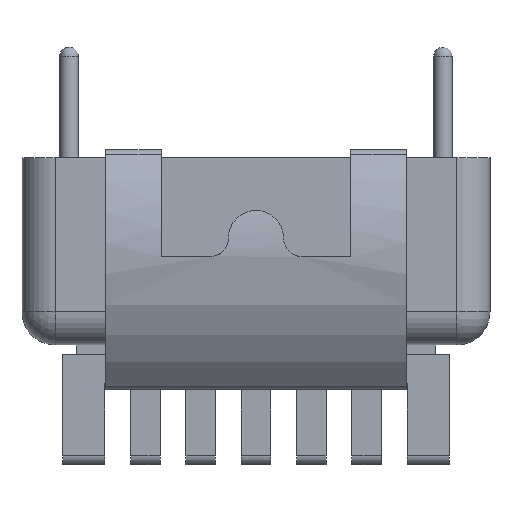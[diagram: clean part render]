
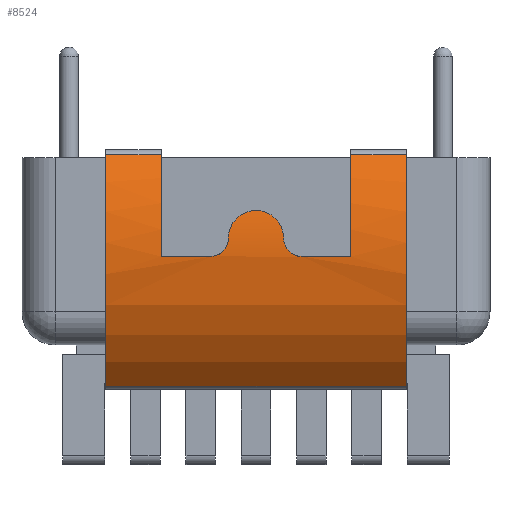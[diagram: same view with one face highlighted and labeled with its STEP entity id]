
A CAD part, left-side view. The second image highlights one B-rep face of the part: STEP entity #8524.
In plain terms, the highlighted cylindrical face has radius 10 mm (diameter 20 mm), a partial arc.
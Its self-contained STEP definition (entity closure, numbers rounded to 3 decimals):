
#36=B_SPLINE_CURVE_WITH_KNOTS('',3,(#14031,#14032,#14033,#14034,#14035,
#14036,#14037,#14038,#14039,#14040),.UNSPECIFIED.,.F.,.F.,(4,2,2,2,4),(0.302,
0.34,0.378,0.416,0.453),
 .UNSPECIFIED.);
#37=B_SPLINE_CURVE_WITH_KNOTS('',3,(#14044,#14045,#14046,#14047,#14048,
#14049,#14050,#14051,#14052,#14053,#14054,#14055,#14056,#14057,#14058,#14059,
#14060,#14061),.UNSPECIFIED.,.F.,.F.,(4,2,2,2,2,2,2,2,4),(-0.682,
-0.625,-0.567,-0.511,-0.454,
-0.397,-0.341,-0.284,-0.226),
 .UNSPECIFIED.);
#38=B_SPLINE_CURVE_WITH_KNOTS('',3,(#14065,#14066,#14067,#14068,#14069,
#14070,#14071,#14072,#14073,#14074),.UNSPECIFIED.,.F.,.F.,(4,2,2,2,4),(0.152,
0.189,0.227,0.265,0.302),
 .UNSPECIFIED.);
#187=CYLINDRICAL_SURFACE('',#9225,10.);
#493=CIRCLE('',#9209,10.);
#496=CIRCLE('',#9214,10.);
#499=CIRCLE('',#9219,10.);
#501=CIRCLE('',#9223,10.);
#946=FACE_OUTER_BOUND('',#1430,.T.);
#1430=EDGE_LOOP('',(#7457,#7458,#7459,#7460,#7461,#7462,#7463,#7464,#7465,
#7466,#7467,#7468));
#2329=LINE('',#14078,#3227);
#2330=LINE('',#14086,#3228);
#2331=LINE('',#14094,#3229);
#2332=LINE('',#14101,#3230);
#2334=LINE('',#14108,#3232);
#3227=VECTOR('',#11390,2.65);
#3228=VECTOR('',#11401,3.);
#3229=VECTOR('',#11412,16.3);
#3230=VECTOR('',#11421,3.);
#3232=VECTOR('',#11431,2.65);
#4015=VERTEX_POINT('',#14027);
#4016=VERTEX_POINT('',#14029);
#4017=VERTEX_POINT('',#14042);
#4018=VERTEX_POINT('',#14063);
#4019=VERTEX_POINT('',#14076);
#4020=VERTEX_POINT('',#14080);
#4021=VERTEX_POINT('',#14084);
#4022=VERTEX_POINT('',#14088);
#4023=VERTEX_POINT('',#14092);
#4024=VERTEX_POINT('',#14096);
#4025=VERTEX_POINT('',#14100);
#4026=VERTEX_POINT('',#14104);
#5181=EDGE_CURVE('',#4015,#4016,#36,.T.);
#5183=EDGE_CURVE('',#4016,#4017,#37,.T.);
#5185=EDGE_CURVE('',#4017,#4018,#38,.T.);
#5187=EDGE_CURVE('',#4018,#4019,#2329,.T.);
#5189=EDGE_CURVE('',#4019,#4020,#493,.T.);
#5191=EDGE_CURVE('',#4020,#4021,#2330,.T.);
#5193=EDGE_CURVE('',#4021,#4022,#496,.T.);
#5195=EDGE_CURVE('',#4022,#4023,#2331,.T.);
#5197=EDGE_CURVE('',#4023,#4024,#499,.T.);
#5198=EDGE_CURVE('',#4024,#4025,#2332,.T.);
#5201=EDGE_CURVE('',#4025,#4026,#501,.T.);
#5202=EDGE_CURVE('',#4026,#4015,#2334,.T.);
#7457=ORIENTED_EDGE('',*,*,#5201,.T.);
#7458=ORIENTED_EDGE('',*,*,#5202,.T.);
#7459=ORIENTED_EDGE('',*,*,#5181,.T.);
#7460=ORIENTED_EDGE('',*,*,#5183,.T.);
#7461=ORIENTED_EDGE('',*,*,#5185,.T.);
#7462=ORIENTED_EDGE('',*,*,#5187,.T.);
#7463=ORIENTED_EDGE('',*,*,#5189,.T.);
#7464=ORIENTED_EDGE('',*,*,#5191,.T.);
#7465=ORIENTED_EDGE('',*,*,#5193,.T.);
#7466=ORIENTED_EDGE('',*,*,#5195,.T.);
#7467=ORIENTED_EDGE('',*,*,#5197,.T.);
#7468=ORIENTED_EDGE('',*,*,#5198,.T.);
#8524=ADVANCED_FACE('',(#946),#187,.T.);
#9209=AXIS2_PLACEMENT_3D('',#14082,#11395,#11396);
#9214=AXIS2_PLACEMENT_3D('',#14090,#11406,#11407);
#9219=AXIS2_PLACEMENT_3D('',#14098,#11417,#11418);
#9223=AXIS2_PLACEMENT_3D('',#14106,#11427,#11428);
#9225=AXIS2_PLACEMENT_3D('',#14109,#11432,#11433);
#11390=DIRECTION('',(0.,1.,0.));
#11395=DIRECTION('center_axis',(0.,1.,
0.));
#11396=DIRECTION('ref_axis',(1.,0.,0.));
#11401=DIRECTION('',(0.,1.,0.));
#11406=DIRECTION('center_axis',(0.,-1.,
0.));
#11407=DIRECTION('ref_axis',(1.,0.,0.));
#11412=DIRECTION('',(0.,-1.,0.));
#11417=DIRECTION('center_axis',(0.,1.,
0.));
#11418=DIRECTION('ref_axis',(1.,0.,0.));
#11421=DIRECTION('',(0.,1.,0.));
#11427=DIRECTION('center_axis',(0.,-1.,
0.));
#11428=DIRECTION('ref_axis',(1.,0.,0.));
#11431=DIRECTION('',(0.,1.,0.));
#11432=DIRECTION('center_axis',(0.,1.,
0.));
#11433=DIRECTION('ref_axis',(1.,0.,0.));
#14027=CARTESIAN_POINT('',(-14.709,-2.5,4.8));
#14029=CARTESIAN_POINT('',(-14.653,-1.5,5.8));
#14031=CARTESIAN_POINT('Ctrl Pts',(-14.709,-2.5,
4.8));
#14032=CARTESIAN_POINT('Ctrl Pts',(-14.709,-2.374,
4.8));
#14033=CARTESIAN_POINT('Ctrl Pts',(-14.709,-2.241,4.825));
#14034=CARTESIAN_POINT('Ctrl Pts',(-14.707,-1.994,
4.927));
#14035=CARTESIAN_POINT('Ctrl Pts',(-14.706,-1.882,5.004));
#14036=CARTESIAN_POINT('Ctrl Pts',(-14.7,-1.704,
5.182));
#14037=CARTESIAN_POINT('Ctrl Pts',(-14.695,-1.627,5.294));
#14038=CARTESIAN_POINT('Ctrl Pts',(-14.678,-1.525,
5.541));
#14039=CARTESIAN_POINT('Ctrl Pts',(-14.666,-1.5,
5.675));
#14040=CARTESIAN_POINT('Ctrl Pts',(-14.653,-1.5,5.8));
#14042=CARTESIAN_POINT('',(-14.653,1.5,5.8));
#14044=CARTESIAN_POINT('Ctrl Pts',(-14.653,-1.5,5.8));
#14045=CARTESIAN_POINT('Ctrl Pts',(-14.633,-1.5,
5.99));
#14046=CARTESIAN_POINT('Ctrl Pts',(-14.605,-1.462,
6.192));
#14047=CARTESIAN_POINT('Ctrl Pts',(-14.544,-1.308,
6.562));
#14048=CARTESIAN_POINT('Ctrl Pts',(-14.51,-1.192,
6.73));
#14049=CARTESIAN_POINT('Ctrl Pts',(-14.453,-0.926,
6.995));
#14050=CARTESIAN_POINT('Ctrl Pts',(-14.425,-0.758,
7.11));
#14051=CARTESIAN_POINT('Ctrl Pts',(-14.386,-0.39,
7.262));
#14052=CARTESIAN_POINT('Ctrl Pts',(-14.376,-0.189,
7.3));
#14053=CARTESIAN_POINT('Ctrl Pts',(-14.376,0.189,
7.3));
#14054=CARTESIAN_POINT('Ctrl Pts',(-14.386,0.39,
7.262));
#14055=CARTESIAN_POINT('Ctrl Pts',(-14.425,0.758,
7.11));
#14056=CARTESIAN_POINT('Ctrl Pts',(-14.453,0.925,6.995));
#14057=CARTESIAN_POINT('Ctrl Pts',(-14.51,1.192,6.73));
#14058=CARTESIAN_POINT('Ctrl Pts',(-14.544,1.308,6.562));
#14059=CARTESIAN_POINT('Ctrl Pts',(-14.605,1.462,6.192));
#14060=CARTESIAN_POINT('Ctrl Pts',(-14.633,1.5,5.99));
#14061=CARTESIAN_POINT('Ctrl Pts',(-14.653,1.5,5.8));
#14063=CARTESIAN_POINT('',(-14.709,2.5,4.8));
#14065=CARTESIAN_POINT('Ctrl Pts',(-14.653,1.5,5.8));
#14066=CARTESIAN_POINT('Ctrl Pts',(-14.666,1.5,5.675));
#14067=CARTESIAN_POINT('Ctrl Pts',(-14.678,1.525,5.541));
#14068=CARTESIAN_POINT('Ctrl Pts',(-14.695,1.627,5.295));
#14069=CARTESIAN_POINT('Ctrl Pts',(-14.7,1.704,5.182));
#14070=CARTESIAN_POINT('Ctrl Pts',(-14.706,1.882,5.004));
#14071=CARTESIAN_POINT('Ctrl Pts',(-14.707,1.994,4.927));
#14072=CARTESIAN_POINT('Ctrl Pts',(-14.709,2.24,4.825));
#14073=CARTESIAN_POINT('Ctrl Pts',(-14.709,2.374,4.8));
#14074=CARTESIAN_POINT('Ctrl Pts',(-14.709,2.5,4.8));
#14076=CARTESIAN_POINT('',(-14.709,5.15,4.8));
#14078=CARTESIAN_POINT('',(-14.709,-8.15,4.8));
#14080=CARTESIAN_POINT('',(-12.997,5.15,10.336));
#14082=CARTESIAN_POINT('Origin',(-4.709,5.15,4.741));
#14084=CARTESIAN_POINT('',(-12.997,8.15,10.336));
#14086=CARTESIAN_POINT('',(-12.997,-8.15,10.336));
#14088=CARTESIAN_POINT('',(-11.86,8.15,-2.249));
#14090=CARTESIAN_POINT('Origin',(-4.709,8.15,4.741));
#14092=CARTESIAN_POINT('',(-11.86,-8.15,-2.25));
#14094=CARTESIAN_POINT('',(-11.86,-8.15,-2.25));
#14096=CARTESIAN_POINT('',(-12.997,-8.15,10.336));
#14098=CARTESIAN_POINT('Origin',(-4.709,-8.15,4.741));
#14100=CARTESIAN_POINT('',(-12.997,-5.15,10.336));
#14101=CARTESIAN_POINT('',(-12.997,-8.15,10.336));
#14104=CARTESIAN_POINT('',(-14.709,-5.15,4.8));
#14106=CARTESIAN_POINT('Origin',(-4.709,-5.15,4.741));
#14108=CARTESIAN_POINT('',(-14.709,-8.15,4.8));
#14109=CARTESIAN_POINT('Origin',(-4.709,-8.15,4.741));
